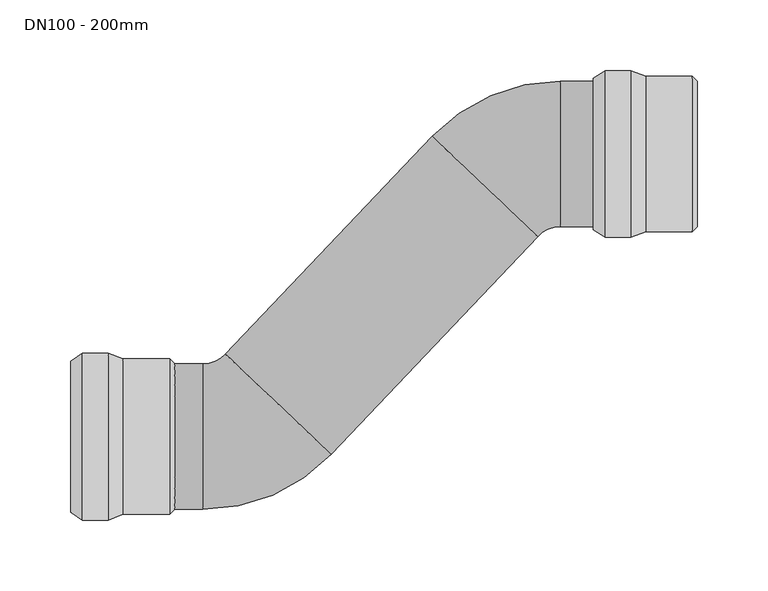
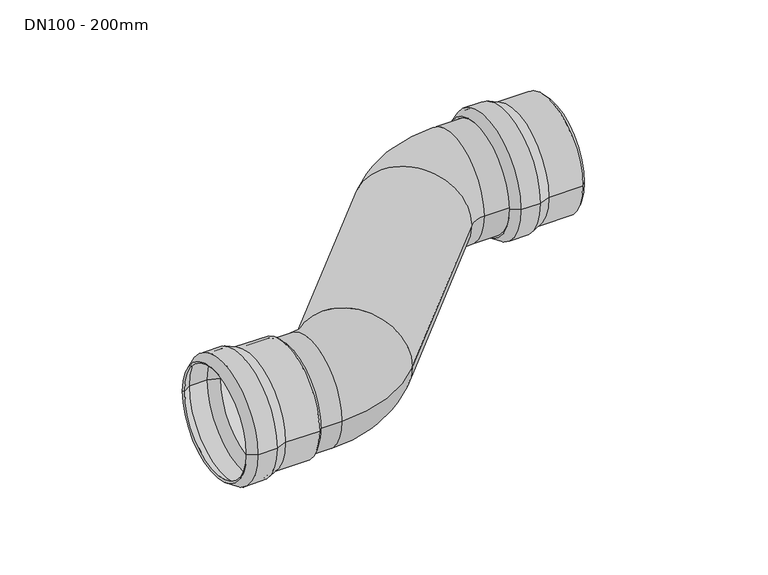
"""IFC4 building model written with IfcOpenShell, lengths in millimetres: valve geometry, PIA_ST_UN_GM-X s-bend_ACO : DN100 - 200mm."""

from ifc_helpers import new_model, si_unit, point, frame, origin, place, context, project, spatial, polyline, circle_curve, ellipse_curve, trimmed, source, transform, mapped, element, save
from ifc_brep_helpers import plane_surface, cylinder_surface, revolved_surface, advanced_brep


def dn100_200mm_57fa8b53(model_context):
    return source(origin(), model_context, "Body", "AdvancedBrep", [
        advanced_brep(
        [(141.5, 259.0, 0.0), (141.5, 141.0, 0.0), (123.3, 141.0, 0.0), (123.3, 259.0, 0.0), (152.0, 255.0, 0.0), (152.0, 145.0, 0.0), (115.0, 146.5, 0.0), (115.0, 253.5, 0.0), (185.0, 255.0, 0.0), (185.0, 145.0, 0.0), (188.5, 251.5, 0.0), (188.5, 148.5, 0.0), (185.0, 251.5, 0.0), (185.0, 148.5, 0.0), (151.6319487, 253.0, 0.0), (151.6319487, 147.0, 0.0), (185.0, 147.0, 0.0), (185.0, 253.0, 0.0), (141.1319487, 257.0, 0.0), (141.1319487, 143.0, 0.0), (123.9025117, 257.0, 0.0), (123.9025117, 143.0, 0.0), (116.1047607, 251.8328156, 0.0), (116.1047607, 148.1671844, 0.0)],
        [
            (0, 1, circle_curve(frame((141.5, 200.0, 0.0), z_axis=(-1.0, 0.0, 0.0), x_axis=(0.0, -1.0, 0.0)), 59.0)),
            (1, 2),
            (2, 3, circle_curve(frame((123.3, 200.0, 0.0), z_axis=(1.0, 0.0, 0.0), x_axis=(0.0, -1.0, 0.0)), 59.0)),
            (3, 0),
            (1, 0, circle_curve(frame((141.5, 200.0, 0.0), z_axis=(-1.0, 0.0, 0.0), x_axis=(0.0, -1.0, 0.0)), 59.0)),
            (3, 2, circle_curve(frame((123.3, 200.0, 0.0), z_axis=(1.0, 0.0, 0.0), x_axis=(0.0, -1.0, 0.0)), 59.0)),
            (4, 5, circle_curve(frame((152.0, 200.0, 0.0), z_axis=(-1.0, 0.0, 0.0), x_axis=(0.0, -1.0, 0.0)), 55.0)),
            (5, 1),
            (0, 4),
            (5, 4, circle_curve(frame((152.0, 200.0, 0.0), z_axis=(-1.0, 0.0, 0.0), x_axis=(0.0, -1.0, 0.0)), 55.0)),
            (2, 6),
            (6, 7, circle_curve(frame((115.0, 200.0, 0.0), z_axis=(1.0, 0.0, 0.0), x_axis=(0.0, -1.0, 0.0)), 53.5)),
            (7, 3),
            (7, 6, circle_curve(frame((115.0, 200.0, 0.0), z_axis=(1.0, 0.0, 0.0), x_axis=(0.0, -1.0, 0.0)), 53.5)),
            (8, 9, circle_curve(frame((185.0, 200.0, 0.0), z_axis=(-1.0, 0.0, 0.0), x_axis=(0.0, -1.0, 0.0)), 55.0)),
            (9, 5),
            (4, 8),
            (9, 8, circle_curve(frame((185.0, 200.0, 0.0), z_axis=(-1.0, 0.0, 0.0), x_axis=(0.0, -1.0, 0.0)), 55.0)),
            (10, 11, circle_curve(frame((188.5, 200.0, 0.0), z_axis=(-1.0, 0.0, 0.0), x_axis=(0.0, -1.0, 0.0)), 51.5)),
            (11, 9),
            (8, 10),
            (11, 10, circle_curve(frame((188.5, 200.0, 0.0), z_axis=(-1.0, 0.0, 0.0), x_axis=(0.0, -1.0, 0.0)), 51.5)),
            (12, 13, circle_curve(frame((185.0, 200.0, 0.0), z_axis=(-1.0, 0.0, 0.0), x_axis=(0.0, -1.0, 0.0)), 51.5)),
            (13, 11),
            (10, 12),
            (13, 12, circle_curve(frame((185.0, 200.0, 0.0), z_axis=(-1.0, 0.0, 0.0), x_axis=(0.0, -1.0, 0.0)), 51.5)),
            (14, 15, circle_curve(frame((151.6319487, 200.0, 0.0), z_axis=(-1.0, 0.0, 0.0), x_axis=(0.0, -1.0, 0.0)), 53.0)),
            (15, 16),
            (16, 17, circle_curve(frame((185.0, 200.0, 0.0), z_axis=(1.0, 0.0, 0.0), x_axis=(0.0, -1.0, 0.0)), 53.0)),
            (17, 14),
            (15, 14, circle_curve(frame((151.6319487, 200.0, 0.0), z_axis=(-1.0, 0.0, 0.0), x_axis=(0.0, -1.0, 0.0)), 53.0)),
            (17, 16, circle_curve(frame((185.0, 200.0, 0.0), z_axis=(1.0, 0.0, 0.0), x_axis=(0.0, -1.0, 0.0)), 53.0)),
            (18, 19, circle_curve(frame((141.1319487, 200.0, 0.0), z_axis=(-1.0, 0.0, 0.0), x_axis=(0.0, -1.0, 0.0)), 57.0)),
            (19, 15),
            (14, 18),
            (19, 18, circle_curve(frame((141.1319487, 200.0, 0.0), z_axis=(-1.0, 0.0, 0.0), x_axis=(0.0, -1.0, 0.0)), 57.0)),
            (20, 21, circle_curve(frame((123.9025117, 200.0, 0.0), z_axis=(-1.0, 0.0, 0.0), x_axis=(0.0, -1.0, 0.0)), 57.0)),
            (21, 19),
            (18, 20),
            (21, 20, circle_curve(frame((123.9025117, 200.0, 0.0), z_axis=(-1.0, 0.0, 0.0), x_axis=(0.0, -1.0, 0.0)), 57.0)),
            (22, 23, circle_curve(frame((116.1047607, 200.0, 0.0), z_axis=(-1.0, 0.0, 0.0), x_axis=(0.0, -1.0, 0.0)), 51.8328156)),
            (23, 21),
            (20, 22),
            (23, 22, circle_curve(frame((116.1047607, 200.0, 0.0), z_axis=(-1.0, 0.0, 0.0), x_axis=(0.0, -1.0, 0.0)), 51.8328156)),
            (6, 23),
            (22, 7),
            (16, 13),
            (12, 17),
        ],
        [
            cylinder_surface(frame((118.3555883, 200.0, 0.0), z_axis=(1.0, 0.0, 0.0), x_axis=(0.0, -1.0, 0.0)), 59.0),
            revolved_surface(polyline([(141.5, 141.0, 0.0), (152.0, 145.0, 0.0)]), (118.3555883, 200.0, 0.0), (1.0, 0.0, 0.0)),
            revolved_surface(polyline([(115.0, 146.5, 0.0), (123.3, 141.0, 0.0)]), (118.3555883, 200.0, 0.0), (1.0, 0.0, 0.0)),
            cylinder_surface(frame((118.3555883, 200.0, 0.0), z_axis=(1.0, 0.0, 0.0), x_axis=(0.0, -1.0, 0.0)), 55.0),
            revolved_surface(polyline([(185.0, 145.0, 0.0), (188.5, 148.5, 0.0)]), (118.3555883, 200.0, 0.0), (1.0, 0.0, 0.0)),
            revolved_surface(polyline([(188.5, 148.5, 0.0), (185.0, 148.5, 0.0)]), (118.3555883, 200.0, 0.0), (1.0, 0.0, 0.0)),
            revolved_surface(polyline([(185.0, 147.0, 0.0), (151.6319487, 147.0, 0.0)]), (118.3555883, 200.0, 0.0), (1.0, 0.0, 0.0)),
            revolved_surface(polyline([(151.6319487, 147.0, 0.0), (141.1319487, 143.0, 0.0)]), (118.3555883, 200.0, 0.0), (1.0, 0.0, 0.0)),
            revolved_surface(polyline([(141.1319487, 143.0, 0.0), (123.9025117, 143.0, 0.0)]), (118.3555883, 200.0, 0.0), (1.0, 0.0, 0.0)),
            revolved_surface(polyline([(123.9025117, 143.0, 0.0), (116.1047607, 148.1671844, 0.0)]), (118.3555883, 200.0, 0.0), (1.0, 0.0, 0.0)),
            revolved_surface(polyline([(116.1047607, 148.1671844, 0.0), (115.0, 146.5, 0.0)]), (118.3555883, 200.0, 0.0), (1.0, 0.0, 0.0)),
            plane_surface(frame((185.0, 200.0, 0.0), z_axis=(-1.0, 0.0, 0.0), x_axis=(0.0, -1.0, 0.0))),
        ],
        [
            (0, [[1, 2, 3, 4]]),
            (0, [[5, -4, 6, -2]]),
            (1, [[7, 8, -1, 9]]),
            (1, [[10, -9, -5, -8]]),
            (2, [[-3, 11, 12, 13]]),
            (2, [[-6, -13, 14, -11]]),
            (3, [[15, 16, -7, 17]]),
            (3, [[18, -17, -10, -16]]),
            (4, [[19, 20, -15, 21]]),
            (4, [[22, -21, -18, -20]]),
            (5, [[23, 24, -19, 25]]),
            (5, [[26, -25, -22, -24]]),
            (6, [[27, 28, 29, 30]]),
            (6, [[31, -30, 32, -28]]),
            (7, [[33, 34, -27, 35]]),
            (7, [[36, -35, -31, -34]]),
            (8, [[37, 38, -33, 39]]),
            (8, [[40, -39, -36, -38]]),
            (9, [[41, 42, -37, 43]]),
            (9, [[44, -43, -40, -42]]),
            (10, [[-12, 45, -41, 46]]),
            (10, [[-14, -46, -44, -45]]),
            (11, [[-29, 47, -23, 48]]),
            (11, [[-32, -48, -26, -47]]),
        ],
    ),
        advanced_brep(
        [(-228.5, 59.0, 0.0), (-228.5, -59.0, 0.0), (-246.7, -59.0, 0.0), (-246.7, 59.0, 0.0), (-218.0, 55.0, 0.0), (-218.0, -55.0, 0.0), (-255.0, -53.5, 0.0), (-255.0, 53.5, 0.0), (-185.0, 55.0, 0.0), (-185.0, -55.0, 0.0), (-181.5, 51.5, 0.0), (-181.5, -51.5, 0.0), (-185.0, 51.5, 0.0), (-185.0, -51.5, 0.0), (-218.3680513, 53.0, 0.0), (-218.3680513, -53.0, 0.0), (-185.0, -53.0, 0.0), (-185.0, 53.0, 0.0), (-228.8680513, 57.0, 0.0), (-228.8680513, -57.0, 0.0), (-246.0974883, 57.0, 0.0), (-246.0974883, -57.0, 0.0), (-253.8952393, 51.8328156, 0.0), (-253.8952393, -51.8328156, 0.0)],
        [
            (0, 1, circle_curve(frame((-228.5, 0.0, 0.0), z_axis=(-1.0, 0.0, 0.0), x_axis=(0.0, -1.0, 0.0)), 59.0)),
            (1, 2),
            (2, 3, circle_curve(frame((-246.7, 0.0, 0.0), z_axis=(1.0, 0.0, 0.0), x_axis=(0.0, -1.0, 0.0)), 59.0)),
            (3, 0),
            (1, 0, circle_curve(frame((-228.5, 0.0, 0.0), z_axis=(-1.0, 0.0, 0.0), x_axis=(0.0, -1.0, 0.0)), 59.0)),
            (3, 2, circle_curve(frame((-246.7, 0.0, 0.0), z_axis=(1.0, 0.0, 0.0), x_axis=(0.0, -1.0, 0.0)), 59.0)),
            (4, 5, circle_curve(frame((-218.0, 0.0, 0.0), z_axis=(-1.0, 0.0, 0.0), x_axis=(0.0, -1.0, 0.0)), 55.0)),
            (5, 1),
            (0, 4),
            (5, 4, circle_curve(frame((-218.0, 0.0, 0.0), z_axis=(-1.0, 0.0, 0.0), x_axis=(0.0, -1.0, 0.0)), 55.0)),
            (2, 6),
            (6, 7, circle_curve(frame((-255.0, 0.0, 0.0), z_axis=(1.0, 0.0, 0.0), x_axis=(0.0, -1.0, 0.0)), 53.5)),
            (7, 3),
            (7, 6, circle_curve(frame((-255.0, 0.0, 0.0), z_axis=(1.0, 0.0, 0.0), x_axis=(0.0, -1.0, 0.0)), 53.5)),
            (8, 9, circle_curve(frame((-185.0, 0.0, 0.0), z_axis=(-1.0, 0.0, 0.0), x_axis=(0.0, -1.0, 0.0)), 55.0)),
            (9, 5),
            (4, 8),
            (9, 8, circle_curve(frame((-185.0, 0.0, 0.0), z_axis=(-1.0, 0.0, 0.0), x_axis=(0.0, -1.0, 0.0)), 55.0)),
            (10, 11, circle_curve(frame((-181.5, 0.0, 0.0), z_axis=(-1.0, 0.0, 0.0), x_axis=(0.0, -1.0, 0.0)), 51.5)),
            (11, 9),
            (8, 10),
            (11, 10, circle_curve(frame((-181.5, 0.0, 0.0), z_axis=(-1.0, 0.0, 0.0), x_axis=(0.0, -1.0, 0.0)), 51.5)),
            (12, 13, circle_curve(frame((-185.0, 0.0, 0.0), z_axis=(-1.0, 0.0, 0.0), x_axis=(0.0, -1.0, 0.0)), 51.5)),
            (13, 11),
            (10, 12),
            (13, 12, circle_curve(frame((-185.0, 0.0, 0.0), z_axis=(-1.0, 0.0, 0.0), x_axis=(0.0, -1.0, 0.0)), 51.5)),
            (14, 15, circle_curve(frame((-218.3680513, 0.0, 0.0), z_axis=(-1.0, 0.0, 0.0), x_axis=(0.0, -1.0, 0.0)), 53.0)),
            (15, 16),
            (16, 17, circle_curve(frame((-185.0, 0.0, 0.0), z_axis=(1.0, 0.0, 0.0), x_axis=(0.0, -1.0, 0.0)), 53.0)),
            (17, 14),
            (15, 14, circle_curve(frame((-218.3680513, 0.0, 0.0), z_axis=(-1.0, 0.0, 0.0), x_axis=(0.0, -1.0, 0.0)), 53.0)),
            (17, 16, circle_curve(frame((-185.0, 0.0, 0.0), z_axis=(1.0, 0.0, 0.0), x_axis=(0.0, -1.0, 0.0)), 53.0)),
            (18, 19, circle_curve(frame((-228.8680513, 0.0, 0.0), z_axis=(-1.0, 0.0, 0.0), x_axis=(0.0, -1.0, 0.0)), 57.0)),
            (19, 15),
            (14, 18),
            (19, 18, circle_curve(frame((-228.8680513, 0.0, 0.0), z_axis=(-1.0, 0.0, 0.0), x_axis=(0.0, -1.0, 0.0)), 57.0)),
            (20, 21, circle_curve(frame((-246.0974883, 0.0, 0.0), z_axis=(-1.0, 0.0, 0.0), x_axis=(0.0, -1.0, 0.0)), 57.0)),
            (21, 19),
            (18, 20),
            (21, 20, circle_curve(frame((-246.0974883, 0.0, 0.0), z_axis=(-1.0, 0.0, 0.0), x_axis=(0.0, -1.0, 0.0)), 57.0)),
            (22, 23, circle_curve(frame((-253.8952393, 0.0, 0.0), z_axis=(-1.0, 0.0, 0.0), x_axis=(0.0, -1.0, 0.0)), 51.8328156)),
            (23, 21),
            (20, 22),
            (23, 22, circle_curve(frame((-253.8952393, 0.0, 0.0), z_axis=(-1.0, 0.0, 0.0), x_axis=(0.0, -1.0, 0.0)), 51.8328156)),
            (6, 23),
            (22, 7),
            (16, 13),
            (12, 17),
        ],
        [
            cylinder_surface(frame((-251.6444117, 0.0, 0.0), z_axis=(1.0, 0.0, 0.0), x_axis=(0.0, -1.0, 0.0)), 59.0),
            revolved_surface(polyline([(-228.5, -59.0, 0.0), (-218.0, -55.0, 0.0)]), (-251.6444117, 0.0, 0.0), (1.0, 0.0, 0.0)),
            revolved_surface(polyline([(-255.0, -53.5, 0.0), (-246.7, -59.0, 0.0)]), (-251.6444117, 0.0, 0.0), (1.0, 0.0, 0.0)),
            cylinder_surface(frame((-251.6444117, 0.0, 0.0), z_axis=(1.0, 0.0, 0.0), x_axis=(0.0, -1.0, 0.0)), 55.0),
            revolved_surface(polyline([(-185.0, -55.0, 0.0), (-181.5, -51.5, 0.0)]), (-251.6444117, 0.0, 0.0), (1.0, 0.0, 0.0)),
            revolved_surface(polyline([(-181.5, -51.5, 0.0), (-185.0, -51.5, 0.0)]), (-251.6444117, 0.0, 0.0), (1.0, 0.0, 0.0)),
            revolved_surface(polyline([(-185.0, -53.0, 0.0), (-218.3680513, -53.0, 0.0)]), (-251.6444117, 0.0, 0.0), (1.0, 0.0, 0.0)),
            revolved_surface(polyline([(-218.3680513, -53.0, 0.0), (-228.8680513, -57.0, 0.0)]), (-251.6444117, 0.0, 0.0), (1.0, 0.0, 0.0)),
            revolved_surface(polyline([(-228.8680513, -57.0, 0.0), (-246.0974883, -57.0, 0.0)]), (-251.6444117, 0.0, 0.0), (1.0, 0.0, 0.0)),
            revolved_surface(polyline([(-246.0974883, -57.0, 0.0), (-253.8952393, -51.8328156, 0.0)]), (-251.6444117, 0.0, 0.0), (1.0, 0.0, 0.0)),
            revolved_surface(polyline([(-253.8952393, -51.8328156, 0.0), (-255.0, -53.5, 0.0)]), (-251.6444117, 0.0, 0.0), (1.0, 0.0, 0.0)),
            plane_surface(frame((-185.0, 0.0, 0.0), z_axis=(-1.0, 0.0, 0.0), x_axis=(0.0, -1.0, 0.0))),
        ],
        [
            (0, [[1, 2, 3, 4]]),
            (0, [[5, -4, 6, -2]]),
            (1, [[7, 8, -1, 9]]),
            (1, [[10, -9, -5, -8]]),
            (2, [[-3, 11, 12, 13]]),
            (2, [[-6, -13, 14, -11]]),
            (3, [[15, 16, -7, 17]]),
            (3, [[18, -17, -10, -16]]),
            (4, [[19, 20, -15, 21]]),
            (4, [[22, -21, -18, -20]]),
            (5, [[23, 24, -19, 25]]),
            (5, [[26, -25, -22, -24]]),
            (6, [[27, 28, 29, 30]]),
            (6, [[31, -30, 32, -28]]),
            (7, [[33, 34, -27, 35]]),
            (7, [[36, -35, -31, -34]]),
            (8, [[37, 38, -33, 39]]),
            (8, [[40, -39, -36, -38]]),
            (9, [[41, 42, -37, 43]]),
            (9, [[44, -43, -40, -42]]),
            (10, [[-12, 45, -41, 46]]),
            (10, [[-14, -46, -44, -45]]),
            (11, [[-29, 47, -23, 48]]),
            (11, [[-32, -48, -26, -47]]),
        ],
    ),
        advanced_brep(
        [(-185.0, -51.5, 0.0), (-185.0, 51.5, 0.0), (-161.55958, -51.5, 0.0), (-161.55958, 51.5, 0.0), (-145.4517986, 58.4204491, 0.0), (-70.7382383, -12.4800722, 0.0), (75.4588852, 141.5795509, 0.0), (0.745325, 212.4800722, 0.0), (91.5666667, 251.5, 0.0), (91.5666667, 148.5, 0.0), (185.0, 148.5, 0.0), (185.0, 251.5, 0.0)],
        [
            (0, 1, circle_curve(frame((-185.0, 0.0, 0.0), z_axis=(-1.0, 0.0, 0.0), x_axis=(0.0, 1.0, 0.0)), 51.5)),
            (1, 0, circle_curve(frame((-185.0, 0.0, 0.0), z_axis=(-1.0, 0.0, 0.0), x_axis=(0.0, 1.0, 0.0)), 51.5)),
            (0, 2),
            (2, 3, circle_curve(frame((-161.55958, 0.0, 0.0), z_axis=(-1.0, 0.0, 0.0), x_axis=(0.0, 1.0, 0.0)), 51.5)),
            (3, 1),
            (3, 2, circle_curve(frame((-161.55958, 0.0, 0.0), z_axis=(-1.0, 0.0, 0.0), x_axis=(0.0, 1.0, 0.0)), 51.5)),
            (4, 3, circle_curve(frame((-161.55958, 73.7061629, 0.0), z_axis=(0.0, 0.0, -1.0), x_axis=(0.0, -1.0, 0.0)), 22.2061629)),
            (2, 5, circle_curve(frame((-161.55958, 73.7061629, 0.0), z_axis=(0.0, 0.0, 1.0), x_axis=(0.0, -1.0, 0.0)), 125.2061629)),
            (5, 4, circle_curve(frame((-108.0950184, 22.9701884, 0.0), z_axis=(-0.688354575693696, -0.7253743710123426, 0.0), x_axis=(-0.7253743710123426, 0.688354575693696, 0.0)), 51.5)),
            (4, 5, circle_curve(frame((-108.0950184, 22.9701884, 0.0), z_axis=(-0.6883545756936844, -0.7253743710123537, 0.0), x_axis=(-0.7253743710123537, 0.6883545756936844, 0.0)), 51.5)),
            (5, 6),
            (6, 7, circle_curve(frame((38.1021051, 177.0298116, 0.0), z_axis=(-0.6883545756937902, -0.7253743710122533, 0.0), x_axis=(-0.7253743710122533, 0.6883545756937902, 0.0)), 51.5)),
            (7, 4),
            (7, 6, circle_curve(frame((38.1021051, 177.0298116, 0.0), z_axis=(-0.6883545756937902, -0.7253743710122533, 0.0), x_axis=(-0.7253743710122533, 0.6883545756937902, 0.0)), 51.5)),
            (8, 7, circle_curve(frame((91.5666667, 126.2938371, 0.0), z_axis=(0.0, 0.0, 1.0), x_axis=(-0.7253743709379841, 0.6883545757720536, 0.0)), 125.2061629)),
            (6, 9, circle_curve(frame((91.5666667, 126.2938371, 0.0), z_axis=(0.0, 0.0, -1.0), x_axis=(-0.7253743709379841, 0.6883545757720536, 0.0)), 22.2061629)),
            (9, 8, circle_curve(frame((91.5666667, 200.0, 0.0), z_axis=(-1.0, 0.0, 0.0), x_axis=(0.0, 1.0, 0.0)), 51.5)),
            (8, 9, circle_curve(frame((91.5666667, 200.0, 0.0), z_axis=(-1.0, 0.0, 0.0), x_axis=(0.0, 1.0, 0.0)), 51.5)),
            (10, 11, circle_curve(frame((185.0, 200.0, 0.0), z_axis=(1.0, 0.0, 0.0), x_axis=(0.0, 1.0, 0.0)), 51.5)),
            (11, 10, circle_curve(frame((185.0, 200.0, 0.0), z_axis=(1.0, 0.0, 0.0), x_axis=(0.0, 1.0, 0.0)), 51.5)),
            (9, 10),
            (11, 8),
        ],
        [
            plane_surface(frame((-185.0, 0.0, 0.0), z_axis=(-1.0, 0.0, 0.0), x_axis=(0.0, 0.0, 1.0))),
            cylinder_surface(frame((-185.0, 0.0, 0.0), z_axis=(-1.0, 0.0, 0.0), x_axis=(0.0, 1.0, 0.0)), 51.5),
            revolved_surface(trimmed(ellipse_curve(frame((-161.55958, 0.0, 0.0), z_axis=(-1.0, 0.0, 0.0), x_axis=(0.0, 1.0, 0.0)), 51.5, 51.5), [point((-161.55958, -51.5, 0.0))], [point((-161.55958, 51.5, 0.0))], True, "CARTESIAN"), (-161.55958, 73.7061629, 0.0), (0.0, 0.0, 1.0)),
            revolved_surface(trimmed(ellipse_curve(frame((-161.55958, 0.0, 0.0), z_axis=(-1.0, 0.0, 0.0), x_axis=(0.0, 1.0, 0.0)), 51.5, 51.5), [point((-161.55958, 51.5, 0.0))], [point((-161.55958, -51.5, 0.0))], True, "CARTESIAN"), (-161.55958, 73.7061629, 0.0), (0.0, 0.0, 1.0)),
            cylinder_surface(frame((-108.0950184, 22.9701884, 0.0), z_axis=(-0.6883545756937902, -0.7253743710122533, 0.0), x_axis=(-0.7253743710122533, 0.6883545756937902, 0.0)), 51.5),
            revolved_surface(trimmed(ellipse_curve(frame((38.1021051, 177.0298116, 0.0), z_axis=(-0.6883545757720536, -0.7253743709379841, 0.0), x_axis=(-0.7253743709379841, 0.6883545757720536, 0.0)), 51.5, 51.5), [point((75.4588852, 141.5795509, 0.0))], [point((0.745325, 212.4800722, 0.0))], True, "CARTESIAN"), (91.5666667, 126.2938371, 0.0), (0.0, 0.0, -1.0)),
            revolved_surface(trimmed(ellipse_curve(frame((38.1021051, 177.0298116, 0.0), z_axis=(-0.6883545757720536, -0.7253743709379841, 0.0), x_axis=(-0.7253743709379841, 0.6883545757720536, 0.0)), 51.5, 51.5), [point((0.745325, 212.4800722, 0.0))], [point((75.4588852, 141.5795509, 0.0))], True, "CARTESIAN"), (91.5666667, 126.2938371, 0.0), (0.0, 0.0, -1.0)),
            plane_surface(frame((185.0, 200.0, 0.0), z_axis=(1.0, 0.0, 0.0), x_axis=(0.0, 0.0, 1.0))),
            cylinder_surface(frame((91.5666667, 200.0, 0.0), z_axis=(-1.0, 0.0, 0.0), x_axis=(0.0, 1.0, 0.0)), 51.5),
        ],
        [
            (0, [[1, 2]]),
            (1, [[-1, 3, 4, 5]]),
            (1, [[-2, -5, 6, -3]]),
            (2, [[7, -4, 8, 9]]),
            (3, [[-8, -6, -7, 10]]),
            (4, [[-9, 11, 12, 13]]),
            (4, [[-10, -13, 14, -11]]),
            (5, [[15, -12, 16, 17]]),
            (6, [[-16, -14, -15, 18]]),
            (7, [[19, 20]]),
            (8, [[-17, 21, -20, 22]]),
            (8, [[-18, -22, -19, -21]]),
        ],
    ),
    ])


if __name__ == "__main__":
    model = new_model("IFC4")
    model_context = context("Model", 3, world=origin())
    ifc_project = project(units=[si_unit("LENGTHUNIT", "METRE", prefix="MILLI")], contexts=[model_context])
    site = spatial("IfcSite", under=ifc_project)
    building = spatial("IfcBuilding", under=site)
    placement = place(None, origin())
    dn100_200mm_shape = dn100_200mm_57fa8b53(model_context)
    element("IfcValve", 1, ObjectType="PIA_ST_UN_GM-X s-bend_ACO : DN100 - 200mm", at=placement, inside=building, context=model_context, shape_type="MappedRepresentation", body=[
        mapped(dn100_200mm_shape, transform((0.0, 0.0, 0.0), x_axis=(1.0, 0.0, 0.0), y_axis=(0.0, 1.0, 0.0), z_axis=(0.0, 0.0, 1.0))),
    ])
    save(model, "model.ifc")
